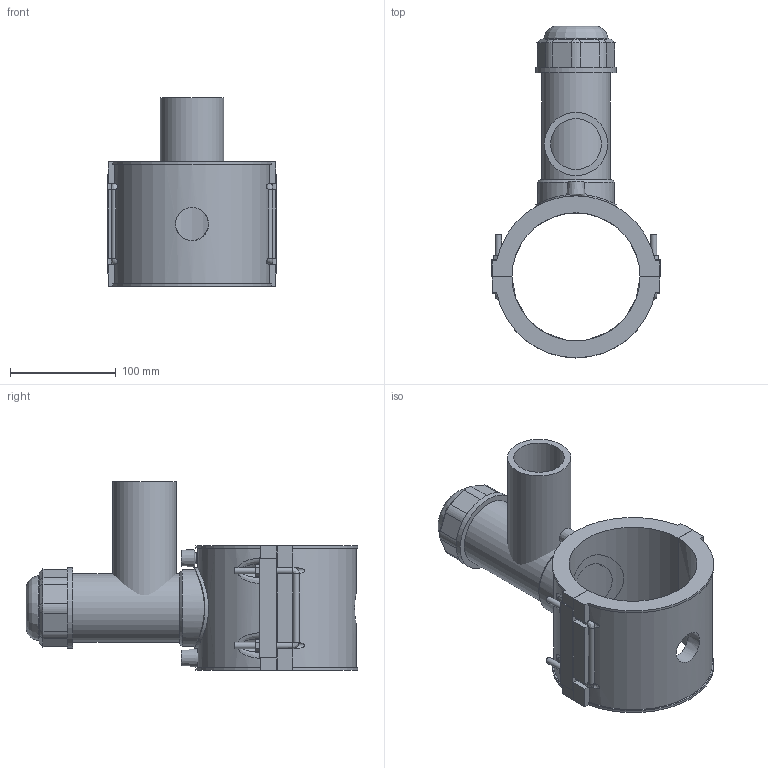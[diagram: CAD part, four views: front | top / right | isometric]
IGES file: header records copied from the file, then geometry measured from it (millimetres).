
Global section: file name: 5963DBP3040020.ipt; native system: Autodesk Inventor 2019; preprocessor: unknown; author: KIM; date: 20210830.101645; units: inch
Bounding box: 161 x 314.4 x 178.94 mm (x, y, z)
Volume: 1243540.2 mm3; surface area: 249538.7 mm2
Topology: 4 solids, 4 shells, 194 faces, 481 edges, 312 vertices
Faces by surface type: plane 118, cylinder 36, revolution 21, cone 15, bspline 4
Full cylindrical faces by diameter (mm): 4 x2, 6 x8, 60.1 x1, 61.135 x1, 64.956 x1, 72.598 x1, 76.419 x2
